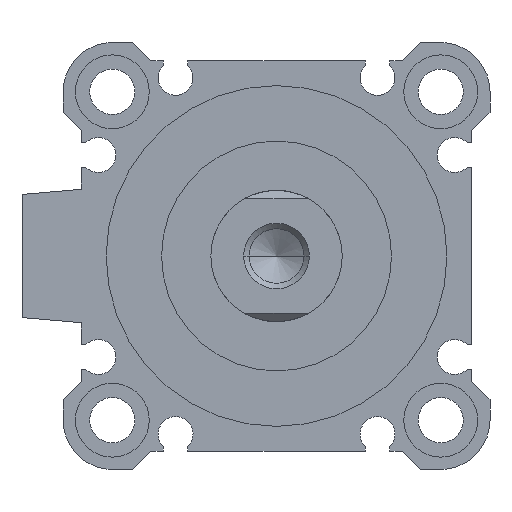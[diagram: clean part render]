
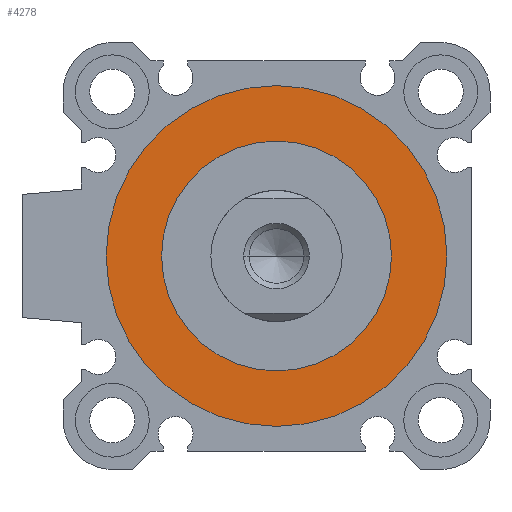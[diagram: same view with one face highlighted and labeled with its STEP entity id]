
A CAD part, left-side view. The second image highlights one B-rep face of the part: STEP entity #4278.
In plain terms, the highlighted planar face has unit normal (-1, 0, 0).
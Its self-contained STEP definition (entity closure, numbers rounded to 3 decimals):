
#284 = DIRECTION ( 'NONE',  ( 1., 0., 0. ) ) ;
#301 = AXIS2_PLACEMENT_3D ( 'NONE', #4065, #4141, #1839 ) ;
#406 = EDGE_LOOP ( 'NONE', ( #2674, #3173 ) ) ;
#434 = CIRCLE ( 'NONE', #3267, 14. ) ;
#496 = VERTEX_POINT ( 'NONE', #1494 ) ;
#707 = CIRCLE ( 'NONE', #2827, 20.75 ) ;
#873 = AXIS2_PLACEMENT_3D ( 'NONE', #3246, #937, #4002 ) ;
#883 = DIRECTION ( 'NONE',  ( 0., 0., -1. ) ) ;
#926 = DIRECTION ( 'NONE',  ( 0., 0., -1. ) ) ;
#937 = DIRECTION ( 'NONE',  ( 1., 0., 0. ) ) ;
#1078 = FACE_OUTER_BOUND ( 'NONE', #4482, .T. ) ;
#1313 = CARTESIAN_POINT ( 'NONE',  ( 3.3, 0., -14. ) ) ;
#1494 = CARTESIAN_POINT ( 'NONE',  ( 3.3, 0., -20.75 ) ) ;
#1511 = CIRCLE ( 'NONE', #301, 14. ) ;
#1562 = CARTESIAN_POINT ( 'NONE',  ( 3.3, 0., 0. ) ) ;
#1792 = EDGE_CURVE ( 'NONE', #2005, #2513, #434, .T. ) ;
#1839 = DIRECTION ( 'NONE',  ( 0., 0., -1. ) ) ;
#2005 = VERTEX_POINT ( 'NONE', #5034 ) ;
#2098 = ORIENTED_EDGE ( 'NONE', *, *, #2454, .F. ) ;
#2186 = CARTESIAN_POINT ( 'NONE',  ( 3.3, 0., 20.75 ) ) ;
#2221 = CARTESIAN_POINT ( 'NONE',  ( 3.3, 0., 0. ) ) ;
#2454 = EDGE_CURVE ( 'NONE', #496, #3055, #707, .T. ) ;
#2494 = FACE_BOUND ( 'NONE', #406, .T. ) ;
#2513 = VERTEX_POINT ( 'NONE', #1313 ) ;
#2622 = EDGE_CURVE ( 'NONE', #3055, #496, #3952, .T. ) ;
#2640 = PLANE ( 'NONE',  #873 ) ;
#2674 = ORIENTED_EDGE ( 'NONE', *, *, #1792, .T. ) ;
#2711 = DIRECTION ( 'NONE',  ( 1., 0., 0. ) ) ;
#2827 = AXIS2_PLACEMENT_3D ( 'NONE', #1562, #2711, #883 ) ;
#2939 = CARTESIAN_POINT ( 'NONE',  ( 3.3, 0., 0. ) ) ;
#3055 = VERTEX_POINT ( 'NONE', #2186 ) ;
#3173 = ORIENTED_EDGE ( 'NONE', *, *, #3605, .T. ) ;
#3246 = CARTESIAN_POINT ( 'NONE',  ( 3.3, 0., 0. ) ) ;
#3267 = AXIS2_PLACEMENT_3D ( 'NONE', #2221, #284, #3761 ) ;
#3397 = ORIENTED_EDGE ( 'NONE', *, *, #2622, .F. ) ;
#3605 = EDGE_CURVE ( 'NONE', #2513, #2005, #1511, .T. ) ;
#3761 = DIRECTION ( 'NONE',  ( 0., 0., -1. ) ) ;
#3952 = CIRCLE ( 'NONE', #5013, 20.75 ) ;
#4002 = DIRECTION ( 'NONE',  ( 0., 1., 0. ) ) ;
#4065 = CARTESIAN_POINT ( 'NONE',  ( 3.3, 0., 0. ) ) ;
#4141 = DIRECTION ( 'NONE',  ( 1., 0., 0. ) ) ;
#4278 = ADVANCED_FACE ( 'NONE', ( #1078, #2494 ), #2640, .F. ) ;
#4395 = DIRECTION ( 'NONE',  ( 1., 0., 0. ) ) ;
#4482 = EDGE_LOOP ( 'NONE', ( #3397, #2098 ) ) ;
#5013 = AXIS2_PLACEMENT_3D ( 'NONE', #2939, #4395, #926 ) ;
#5034 = CARTESIAN_POINT ( 'NONE',  ( 3.3, 0., 14. ) ) ;
